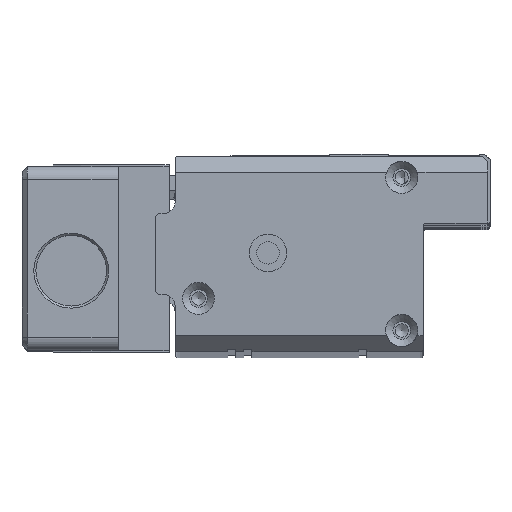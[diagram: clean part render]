
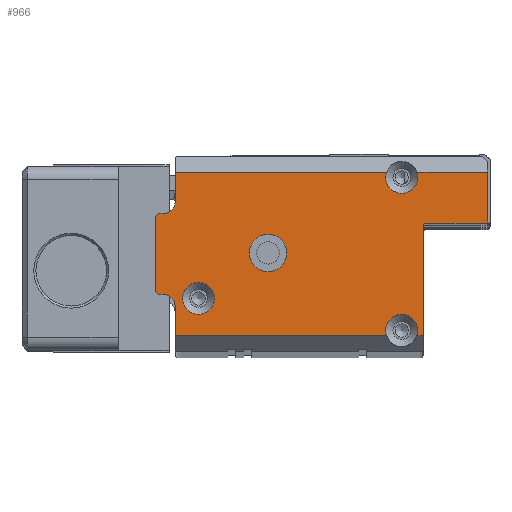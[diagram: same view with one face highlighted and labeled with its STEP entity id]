
A CAD part, top view. The second image highlights one B-rep face of the part: STEP entity #966.
In plain terms, the highlighted planar face has unit normal (0, 0, 1).
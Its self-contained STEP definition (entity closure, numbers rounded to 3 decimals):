
#966=ADVANCED_FACE('',(#4095,#4096,#4097),#1561,.T.);
#1561=PLANE('',#11409);
#1929=LINE('',#15653,#3011);
#1930=LINE('',#15655,#3012);
#1931=LINE('',#15659,#3013);
#1932=LINE('',#15663,#3014);
#1933=LINE('',#15665,#3015);
#1934=LINE('',#15669,#3016);
#1935=LINE('',#15671,#3017);
#1936=LINE('',#15675,#3018);
#1937=LINE('',#15679,#3019);
#1938=LINE('',#15683,#3020);
#1939=LINE('',#15687,#3021);
#1940=LINE('',#15689,#3022);
#3011=VECTOR('',#12459,1.);
#3012=VECTOR('',#12460,1.);
#3013=VECTOR('',#12463,1.);
#3014=VECTOR('',#12466,1.);
#3015=VECTOR('',#12467,1.);
#3016=VECTOR('',#12470,1.);
#3017=VECTOR('',#12471,1.);
#3018=VECTOR('',#12474,1.);
#3019=VECTOR('',#12477,1.);
#3020=VECTOR('',#12480,1.);
#3021=VECTOR('',#12483,1.);
#3022=VECTOR('',#12484,1.);
#4095=FACE_BOUND('',#4340,.T.);
#4096=FACE_BOUND('',#4341,.T.);
#4097=FACE_BOUND('',#4342,.T.);
#4340=EDGE_LOOP('',(#5072));
#4341=EDGE_LOOP('',(#5073,#5074,#5075,#5076,#5077,#5078,#5079,#5080,#5081,
#5082,#5083,#5084,#5085,#5086,#5087,#5088,#5089,#5090,#5091,#5092));
#4342=EDGE_LOOP('',(#5093));
#5072=ORIENTED_EDGE('',*,*,#9395,.T.);
#5073=ORIENTED_EDGE('',*,*,#9396,.T.);
#5074=ORIENTED_EDGE('',*,*,#9397,.T.);
#5075=ORIENTED_EDGE('',*,*,#9398,.T.);
#5076=ORIENTED_EDGE('',*,*,#9399,.T.);
#5077=ORIENTED_EDGE('',*,*,#9400,.T.);
#5078=ORIENTED_EDGE('',*,*,#9401,.T.);
#5079=ORIENTED_EDGE('',*,*,#9402,.T.);
#5080=ORIENTED_EDGE('',*,*,#9403,.T.);
#5081=ORIENTED_EDGE('',*,*,#9404,.T.);
#5082=ORIENTED_EDGE('',*,*,#9405,.T.);
#5083=ORIENTED_EDGE('',*,*,#9406,.T.);
#5084=ORIENTED_EDGE('',*,*,#9407,.T.);
#5085=ORIENTED_EDGE('',*,*,#9408,.T.);
#5086=ORIENTED_EDGE('',*,*,#9409,.T.);
#5087=ORIENTED_EDGE('',*,*,#9410,.T.);
#5088=ORIENTED_EDGE('',*,*,#9411,.T.);
#5089=ORIENTED_EDGE('',*,*,#9412,.T.);
#5090=ORIENTED_EDGE('',*,*,#9413,.T.);
#5091=ORIENTED_EDGE('',*,*,#9414,.T.);
#5092=ORIENTED_EDGE('',*,*,#9415,.T.);
#5093=ORIENTED_EDGE('',*,*,#9416,.T.);
#8292=VERTEX_POINT('',#15649);
#8293=VERTEX_POINT('',#15651);
#8294=VERTEX_POINT('',#15652);
#8295=VERTEX_POINT('',#15654);
#8296=VERTEX_POINT('',#15656);
#8297=VERTEX_POINT('',#15658);
#8298=VERTEX_POINT('',#15660);
#8299=VERTEX_POINT('',#15662);
#8300=VERTEX_POINT('',#15664);
#8301=VERTEX_POINT('',#15666);
#8302=VERTEX_POINT('',#15668);
#8303=VERTEX_POINT('',#15670);
#8304=VERTEX_POINT('',#15672);
#8305=VERTEX_POINT('',#15674);
#8306=VERTEX_POINT('',#15676);
#8307=VERTEX_POINT('',#15678);
#8308=VERTEX_POINT('',#15680);
#8309=VERTEX_POINT('',#15682);
#8310=VERTEX_POINT('',#15684);
#8311=VERTEX_POINT('',#15686);
#8312=VERTEX_POINT('',#15688);
#8313=VERTEX_POINT('',#15691);
#9395=EDGE_CURVE('',#8292,#8292,#11005,.T.);
#9396=EDGE_CURVE('',#8293,#8294,#11006,.T.);
#9397=EDGE_CURVE('',#8294,#8295,#1929,.T.);
#9398=EDGE_CURVE('',#8295,#8296,#1930,.T.);
#9399=EDGE_CURVE('',#8296,#8297,#11007,.T.);
#9400=EDGE_CURVE('',#8297,#8298,#1931,.T.);
#9401=EDGE_CURVE('',#8298,#8299,#11008,.T.);
#9402=EDGE_CURVE('',#8299,#8300,#1932,.T.);
#9403=EDGE_CURVE('',#8300,#8301,#1933,.T.);
#9404=EDGE_CURVE('',#8301,#8302,#11009,.T.);
#9405=EDGE_CURVE('',#8302,#8303,#1934,.T.);
#9406=EDGE_CURVE('',#8303,#8304,#1935,.T.);
#9407=EDGE_CURVE('',#8304,#8305,#11010,.T.);
#9408=EDGE_CURVE('',#8305,#8306,#1936,.T.);
#9409=EDGE_CURVE('',#8306,#8307,#11011,.T.);
#9410=EDGE_CURVE('',#8307,#8308,#1937,.T.);
#9411=EDGE_CURVE('',#8308,#8309,#11012,.T.);
#9412=EDGE_CURVE('',#8309,#8310,#1938,.T.);
#9413=EDGE_CURVE('',#8310,#8311,#11013,.T.);
#9414=EDGE_CURVE('',#8311,#8312,#1939,.T.);
#9415=EDGE_CURVE('',#8312,#8293,#1940,.T.);
#9416=EDGE_CURVE('',#8313,#8313,#11014,.T.);
#11005=CIRCLE('',#11399,3.);
#11006=CIRCLE('',#11400,3.);
#11007=CIRCLE('',#11401,0.5);
#11008=CIRCLE('',#11402,0.5);
#11009=CIRCLE('',#11403,3.);
#11010=CIRCLE('',#11404,2.5);
#11011=CIRCLE('',#11405,0.5);
#11012=CIRCLE('',#11406,0.5);
#11013=CIRCLE('',#11407,2.5);
#11014=CIRCLE('',#11408,3.5);
#11399=AXIS2_PLACEMENT_3D('',#15648,#12455,#12456);
#11400=AXIS2_PLACEMENT_3D('',#15650,#12457,#12458);
#11401=AXIS2_PLACEMENT_3D('',#15657,#12461,#12462);
#11402=AXIS2_PLACEMENT_3D('',#15661,#12464,#12465);
#11403=AXIS2_PLACEMENT_3D('',#15667,#12468,#12469);
#11404=AXIS2_PLACEMENT_3D('',#15673,#12472,#12473);
#11405=AXIS2_PLACEMENT_3D('',#15677,#12475,#12476);
#11406=AXIS2_PLACEMENT_3D('',#15681,#12478,#12479);
#11407=AXIS2_PLACEMENT_3D('',#15685,#12481,#12482);
#11408=AXIS2_PLACEMENT_3D('',#15690,#12485,#12486);
#11409=AXIS2_PLACEMENT_3D('',#15692,#12487,#12488);
#12455=DIRECTION('',(0.,0.,-1.));
#12456=DIRECTION('',(-1.,0.,0.));
#12457=DIRECTION('',(0.,0.,-1.));
#12458=DIRECTION('',(-1.,0.,0.));
#12459=DIRECTION('',(1.,0.,0.));
#12460=DIRECTION('',(0.,1.,0.));
#12461=DIRECTION('',(0.,0.,-1.));
#12462=DIRECTION('',(1.,0.,0.));
#12463=DIRECTION('',(1.,0.,0.));
#12464=DIRECTION('',(0.,0.,1.));
#12465=DIRECTION('',(1.,0.,0.));
#12466=DIRECTION('',(0.,1.,0.));
#12467=DIRECTION('',(-1.,0.,0.));
#12468=DIRECTION('',(0.,0.,-1.));
#12469=DIRECTION('',(-1.,0.,0.));
#12470=DIRECTION('',(-1.,0.,0.));
#12471=DIRECTION('',(0.,-1.,0.));
#12472=DIRECTION('',(0.,0.,-1.));
#12473=DIRECTION('',(1.,0.,0.));
#12474=DIRECTION('',(-1.,0.,0.));
#12475=DIRECTION('',(0.,0.,1.));
#12476=DIRECTION('',(1.,0.,0.));
#12477=DIRECTION('',(0.,-1.,0.));
#12478=DIRECTION('',(0.,0.,1.));
#12479=DIRECTION('',(1.,0.,0.));
#12480=DIRECTION('',(1.,0.,0.));
#12481=DIRECTION('',(0.,0.,-1.));
#12482=DIRECTION('',(1.,0.,0.));
#12483=DIRECTION('',(0.,-1.,0.));
#12484=DIRECTION('',(1.,0.,0.));
#12485=DIRECTION('',(0.,0.,-1.));
#12486=DIRECTION('',(-1.,0.,0.));
#12487=DIRECTION('',(0.,0.,1.));
#12488=DIRECTION('',(-1.,0.,0.));
#15648=CARTESIAN_POINT('',(8.,-26.6,8.));
#15649=CARTESIAN_POINT('',(5.,-26.6,8.));
#15650=CARTESIAN_POINT('',(46.,-32.6,8.));
#15651=CARTESIAN_POINT('',(43.172,-33.6,8.));
#15652=CARTESIAN_POINT('',(48.828,-33.6,8.));
#15653=CARTESIAN_POINT('',(50.,-33.6,8.));
#15654=CARTESIAN_POINT('',(50.,-33.6,8.));
#15655=CARTESIAN_POINT('',(50.,-36.6,8.));
#15656=CARTESIAN_POINT('',(50.,-13.1,8.));
#15657=CARTESIAN_POINT('',(50.5,-13.1,8.));
#15658=CARTESIAN_POINT('',(50.5,-12.6,8.));
#15659=CARTESIAN_POINT('',(50.,-12.6,8.));
#15660=CARTESIAN_POINT('',(61.6,-12.6,8.));
#15661=CARTESIAN_POINT('',(61.6,-12.1,8.));
#15662=CARTESIAN_POINT('',(62.1,-12.1,8.));
#15663=CARTESIAN_POINT('',(62.1,-12.6,8.));
#15664=CARTESIAN_POINT('',(62.1,-3.,8.));
#15665=CARTESIAN_POINT('',(3.7,-3.,8.));
#15666=CARTESIAN_POINT('',(48.828,-3.,8.));
#15667=CARTESIAN_POINT('',(46.,-4.,8.));
#15668=CARTESIAN_POINT('',(43.172,-3.,8.));
#15669=CARTESIAN_POINT('',(3.7,-3.,8.));
#15670=CARTESIAN_POINT('',(3.7,-3.,8.));
#15671=CARTESIAN_POINT('',(3.7,0.,8.));
#15672=CARTESIAN_POINT('',(3.7,-8.3,8.));
#15673=CARTESIAN_POINT('',(1.2,-8.3,8.));
#15674=CARTESIAN_POINT('',(1.2,-10.8,8.));
#15675=CARTESIAN_POINT('',(3.7,-10.8,8.));
#15676=CARTESIAN_POINT('',(0.5,-10.8,8.));
#15677=CARTESIAN_POINT('',(0.5,-11.3,8.));
#15678=CARTESIAN_POINT('',(0.,-11.3,8.));
#15679=CARTESIAN_POINT('',(0.,-10.8,8.));
#15680=CARTESIAN_POINT('',(0.,-25.3,8.));
#15681=CARTESIAN_POINT('',(0.5,-25.3,8.));
#15682=CARTESIAN_POINT('',(0.5,-25.8,8.));
#15683=CARTESIAN_POINT('',(0.,-25.8,8.));
#15684=CARTESIAN_POINT('',(1.2,-25.8,8.));
#15685=CARTESIAN_POINT('',(1.2,-28.3,8.));
#15686=CARTESIAN_POINT('',(3.7,-28.3,8.));
#15687=CARTESIAN_POINT('',(3.7,-25.8,8.));
#15688=CARTESIAN_POINT('',(3.7,-33.6,8.));
#15689=CARTESIAN_POINT('',(50.,-33.6,8.));
#15690=CARTESIAN_POINT('',(21.,-18.1,8.));
#15691=CARTESIAN_POINT('',(17.5,-18.1,8.));
#15692=CARTESIAN_POINT('',(0.,0.,8.));
